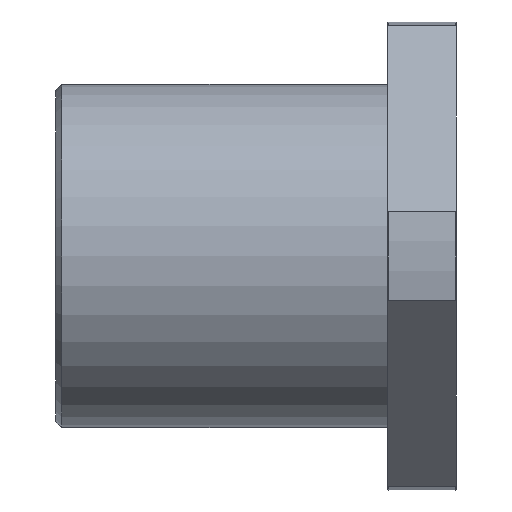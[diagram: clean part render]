
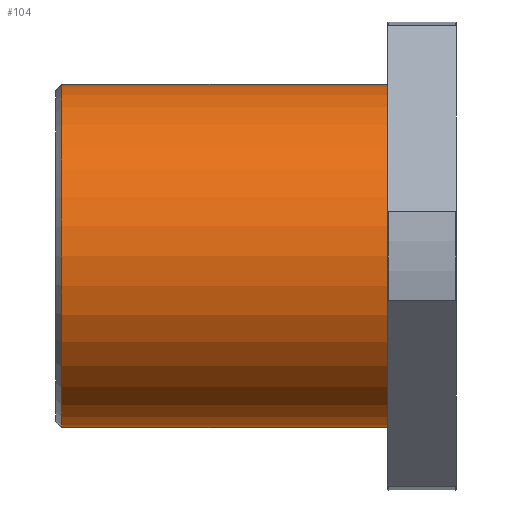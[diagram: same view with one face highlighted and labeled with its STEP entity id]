
A CAD part, front view. The second image highlights one B-rep face of the part: STEP entity #104.
In plain terms, the highlighted cylindrical face has radius 60 mm (diameter 120 mm), a full revolution.
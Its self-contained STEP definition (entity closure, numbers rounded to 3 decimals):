
#104=ADVANCED_FACE('',(#185,#186),#187,.T.);
#185=FACE_OUTER_BOUND('',#279,.T.);
#186=FACE_OUTER_BOUND('',#280,.T.);
#187=CYLINDRICAL_SURFACE('',#281,60.0);
#279=EDGE_LOOP('',(#502));
#280=EDGE_LOOP('',(#503));
#281=AXIS2_PLACEMENT_3D('',#504,#505,#506);
#502=ORIENTED_EDGE('',*,*,#603,.T.);
#503=ORIENTED_EDGE('',*,*,#602,.F.);
#504=CARTESIAN_POINT('',(-141.0,0.0,0.0));
#505=DIRECTION('',(-1.0,-0.0,-0.0));
#506=DIRECTION('',(0.0,0.0,-1.0));
#602=EDGE_CURVE('',#719,#719,#720,.T.);
#603=EDGE_CURVE('',#721,#721,#722,.T.);
#719=VERTEX_POINT('',#905);
#720=CIRCLE('',#906,60.0);
#721=VERTEX_POINT('',#907);
#722=CIRCLE('',#908,60.0);
#905=CARTESIAN_POINT('',(-25.0,0.0,-60.0));
#906=AXIS2_PLACEMENT_3D('',#1027,#1028,#1029);
#907=CARTESIAN_POINT('',(-139.0,0.0,-60.0));
#908=AXIS2_PLACEMENT_3D('',#1030,#1031,#1032);
#1027=CARTESIAN_POINT('',(-25.0,0.0,0.0));
#1028=DIRECTION('',(1.0,0.0,0.0));
#1029=DIRECTION('',(0.0,0.0,-1.0));
#1030=CARTESIAN_POINT('',(-139.0,0.0,0.0));
#1031=DIRECTION('',(1.0,0.0,0.0));
#1032=DIRECTION('',(0.0,0.0,-1.0));
